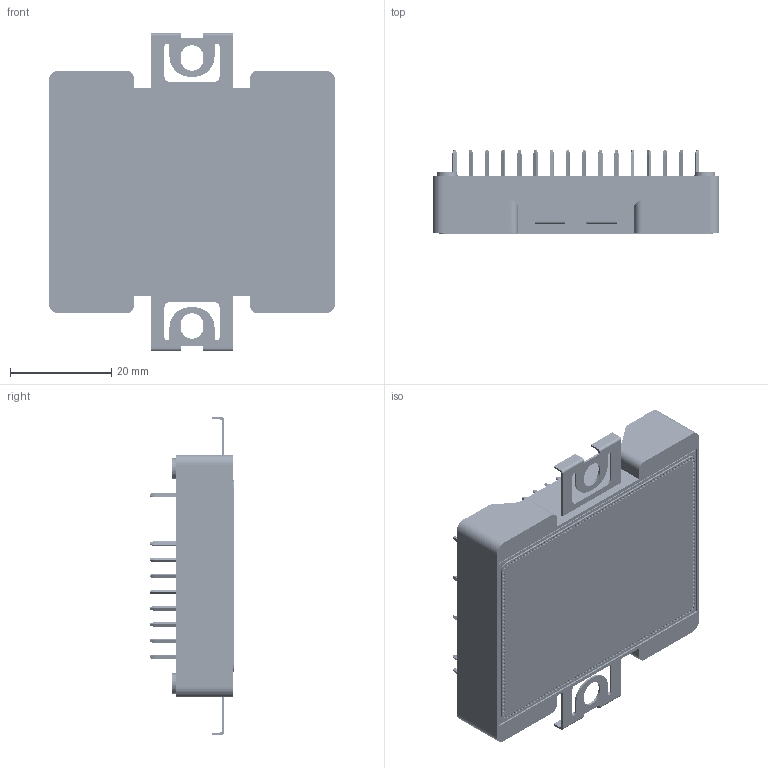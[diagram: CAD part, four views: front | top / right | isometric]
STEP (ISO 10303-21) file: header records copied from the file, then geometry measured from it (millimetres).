
FILE_DESCRIPTION((''),'2;1');
FILE_NAME('AMG040P12P2H3RA-V1-R1_ASM','2024-06-12T16:20:35',('yanbing.guo'),(''),'CREO PARAMETRIC BY PTC INC, 2022073','CREO PARAMETRIC BY PTC INC, 2022073','');
FILE_SCHEMA(('CONFIG_CONTROL_DESIGN','SHAPE_APPEARANCE_LAYERS_GROUPS'));
Length unit declared in the file: millimetre
Products named in the file (9): 000; DBC_LAYOUT_ASM; M1008P1AX002___ACP0001; 00; M1303P2AN001__ACPC0001_ASM; HOUSING_ASM; AMG040P12P2H3RA-V1-R1_ASM
Assembly tree (43 placements, depth 4):
  AMG040P12P2H3RA-V1-R1_ASM
    DBC_LAYOUT_ASM
      000
      000
    HOUSING_ASM
      M1008P1AX002___ACP0001  x35
      M1303P2AN001__ACPC0001_ASM
        00
        00  x2
Bounding box: 56.7 x 16.6 x 62.8 mm (x, y, z)
Volume: 14718.9 mm3; surface area: 25112.9 mm2
Topology: 40 solids, 40 shells, 2560 faces, 6235 edges, 4038 vertices
Faces by surface type: plane 973, cone 691, cylinder 686, torus 210
Entity records: 56634 total; most frequent: DIRECTION 10499, CARTESIAN_POINT 9434, ORIENTED_EDGE 9002, EDGE_CURVE 4501, AXIS2_PLACEMENT_3D 4197, VERTEX_POINT 2996, EDGE_LOOP 2739, CIRCLE 2374
